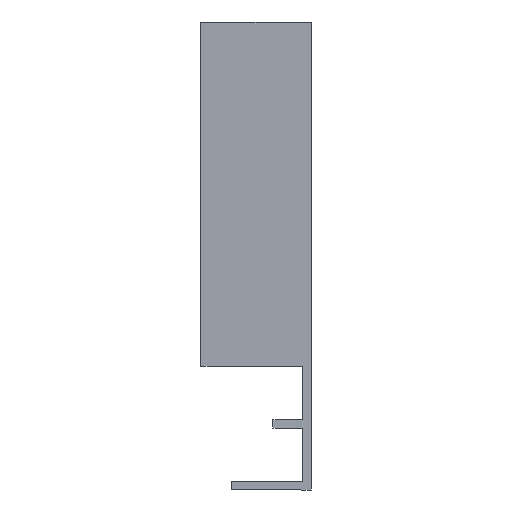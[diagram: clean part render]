
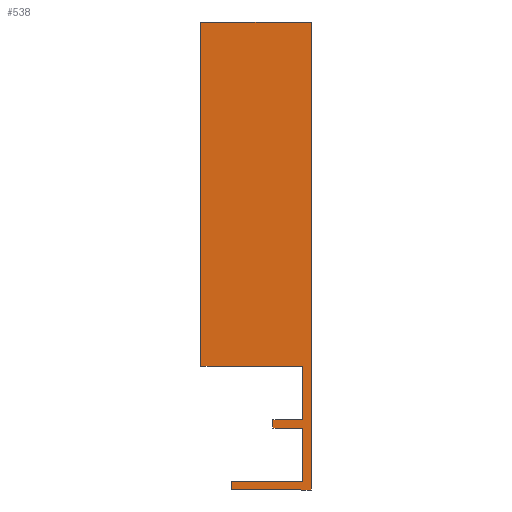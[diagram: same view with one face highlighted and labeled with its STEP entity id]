
A CAD part, left-side view. The second image highlights one B-rep face of the part: STEP entity #538.
In plain terms, the highlighted planar face has unit normal (-1, 0, 0).
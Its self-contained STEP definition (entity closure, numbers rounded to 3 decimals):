
#6 = VERTEX_POINT ( 'NONE', #319 ) ;
#9 = VERTEX_POINT ( 'NONE', #33 ) ;
#11 = VERTEX_POINT ( 'NONE', #32 ) ;
#13 = VERTEX_POINT ( 'NONE', #400 ) ;
#15 = VERTEX_POINT ( 'NONE', #405 ) ;
#17 = VERTEX_POINT ( 'NONE', #374 ) ;
#19 = VERTEX_POINT ( 'NONE', #410 ) ;
#22 = VERTEX_POINT ( 'NONE', #397 ) ;
#24 = VERTEX_POINT ( 'NONE', #390 ) ;
#25 = VERTEX_POINT ( 'NONE', #386 ) ;
#29 = VERTEX_POINT ( 'NONE', #356 ) ;
#32 = CARTESIAN_POINT ( 'NONE',  ( -488.5, -5.5, 49.7 ) ) ;
#33 = CARTESIAN_POINT ( 'NONE',  ( -488.5, 10.4, 49.7 ) ) ;
#34 = VERTEX_POINT ( 'NONE', #367 ) ;
#39 = AXIS2_PLACEMENT_3D ( 'NONE', #466, #472, #473 ) ;
#60 = EDGE_CURVE ( 'NONE', #15, #25, #202, .T. ) ;
#61 = EDGE_CURVE ( 'NONE', #34, #6, #200, .T. ) ;
#62 = EDGE_CURVE ( 'NONE', #25, #34, #192, .T. ) ;
#68 = EDGE_CURVE ( 'NONE', #11, #9, #183, .T. ) ;
#73 = EDGE_CURVE ( 'NONE', #6, #29, #181, .T. ) ;
#74 = EDGE_CURVE ( 'NONE', #24, #22, #168, .T. ) ;
#78 = EDGE_CURVE ( 'NONE', #22, #19, #182, .T. ) ;
#84 = EDGE_CURVE ( 'NONE', #29, #11, #149, .T. ) ;
#85 = EDGE_CURVE ( 'NONE', #9, #13, #147, .T. ) ;
#89 = EDGE_CURVE ( 'NONE', #19, #17, #140, .T. ) ;
#91 = EDGE_CURVE ( 'NONE', #13, #24, #136, .T. ) ;
#92 = EDGE_CURVE ( 'NONE', #17, #15, #134, .T. ) ;
#107 = ORIENTED_EDGE ( 'NONE', *, *, #62, .T. ) ;
#121 = FACE_OUTER_BOUND ( 'NONE', #305, .T. ) ;
#133 = VECTOR ( 'NONE', #432, 1000. ) ;
#134 = LINE ( 'NONE', #431, #133 ) ;
#135 = VECTOR ( 'NONE', #430, 1000. ) ;
#136 = LINE ( 'NONE', #429, #135 ) ;
#139 = VECTOR ( 'NONE', #426, 1000. ) ;
#140 = LINE ( 'NONE', #425, #139 ) ;
#146 = VECTOR ( 'NONE', #416, 1000. ) ;
#147 = LINE ( 'NONE', #415, #146 ) ;
#148 = VECTOR ( 'NONE', #414, 1000. ) ;
#149 = LINE ( 'NONE', #413, #148 ) ;
#160 = VECTOR ( 'NONE', #328, 1000. ) ;
#167 = VECTOR ( 'NONE', #338, 1000. ) ;
#168 = LINE ( 'NONE', #339, #167 ) ;
#170 = VECTOR ( 'NONE', #341, 1000. ) ;
#181 = LINE ( 'NONE', #350, #170 ) ;
#182 = LINE ( 'NONE', #342, #160 ) ;
#183 = LINE ( 'NONE', #355, #185 ) ;
#185 = VECTOR ( 'NONE', #354, 1000. ) ;
#191 = VECTOR ( 'NONE', #372, 1000. ) ;
#192 = LINE ( 'NONE', #373, #191 ) ;
#193 = VECTOR ( 'NONE', #375, 1000. ) ;
#195 = VECTOR ( 'NONE', #378, 1000. ) ;
#200 = LINE ( 'NONE', #379, #193 ) ;
#202 = LINE ( 'NONE', #384, #195 ) ;
#219 = ORIENTED_EDGE ( 'NONE', *, *, #85, .T. ) ;
#220 = ORIENTED_EDGE ( 'NONE', *, *, #91, .T. ) ;
#221 = ORIENTED_EDGE ( 'NONE', *, *, #74, .T. ) ;
#222 = ORIENTED_EDGE ( 'NONE', *, *, #78, .T. ) ;
#223 = ORIENTED_EDGE ( 'NONE', *, *, #89, .T. ) ;
#224 = ORIENTED_EDGE ( 'NONE', *, *, #92, .T. ) ;
#225 = ORIENTED_EDGE ( 'NONE', *, *, #60, .T. ) ;
#247 = ORIENTED_EDGE ( 'NONE', *, *, #61, .T. ) ;
#248 = ORIENTED_EDGE ( 'NONE', *, *, #73, .T. ) ;
#249 = ORIENTED_EDGE ( 'NONE', *, *, #84, .T. ) ;
#259 = ORIENTED_EDGE ( 'NONE', *, *, #68, .T. ) ;
#305 = EDGE_LOOP ( 'NONE', ( #107, #247, #248, #249, #259, #219, #220, #221, #222, #223, #224, #225 ) ) ;
#319 = CARTESIAN_POINT ( 'NONE',  ( -488.5, 6., -17.9 ) ) ;
#328 = DIRECTION ( 'NONE',  ( 0., 1., 0. ) ) ;
#338 = DIRECTION ( 'NONE',  ( 0., 0., -1. ) ) ;
#339 = CARTESIAN_POINT ( 'NONE',  ( -488.5, -4.3, 0. ) ) ;
#341 = DIRECTION ( 'NONE',  ( 0., -1., 0. ) ) ;
#342 = CARTESIAN_POINT ( 'NONE',  ( -488.5, -4.3, -7.75 ) ) ;
#350 = CARTESIAN_POINT ( 'NONE',  ( -488.5, 6., -17.9 ) ) ;
#354 = DIRECTION ( 'NONE',  ( 0., 1., 0. ) ) ;
#355 = CARTESIAN_POINT ( 'NONE',  ( -488.5, -5.5, 49.7 ) ) ;
#356 = CARTESIAN_POINT ( 'NONE',  ( -488.5, -5.5, -17.9 ) ) ;
#367 = CARTESIAN_POINT ( 'NONE',  ( -488.5, 6., -16.7 ) ) ;
#372 = DIRECTION ( 'NONE',  ( 0., 1., 0. ) ) ;
#373 = CARTESIAN_POINT ( 'NONE',  ( -488.5, -4.3, -16.7 ) ) ;
#374 = CARTESIAN_POINT ( 'NONE',  ( -488.5, 0., -8.95 ) ) ;
#375 = DIRECTION ( 'NONE',  ( 0., 0., -1. ) ) ;
#378 = DIRECTION ( 'NONE',  ( 0., 0., -1. ) ) ;
#379 = CARTESIAN_POINT ( 'NONE',  ( -488.5, 6., -16.7 ) ) ;
#384 = CARTESIAN_POINT ( 'NONE',  ( -488.5, -4.3, -8.95 ) ) ;
#386 = CARTESIAN_POINT ( 'NONE',  ( -488.5, -4.3, -16.7 ) ) ;
#390 = CARTESIAN_POINT ( 'NONE',  ( -488.5, -4.3, 0. ) ) ;
#397 = CARTESIAN_POINT ( 'NONE',  ( -488.5, -4.3, -7.75 ) ) ;
#400 = CARTESIAN_POINT ( 'NONE',  ( -488.5, 10.4, 0. ) ) ;
#405 = CARTESIAN_POINT ( 'NONE',  ( -488.5, -4.3, -8.95 ) ) ;
#410 = CARTESIAN_POINT ( 'NONE',  ( -488.5, 0., -7.75 ) ) ;
#413 = CARTESIAN_POINT ( 'NONE',  ( -488.5, -5.5, -17.9 ) ) ;
#414 = DIRECTION ( 'NONE',  ( 0., 0., 1. ) ) ;
#415 = CARTESIAN_POINT ( 'NONE',  ( -488.5, 10.4, 49.7 ) ) ;
#416 = DIRECTION ( 'NONE',  ( 0., 0., -1. ) ) ;
#425 = CARTESIAN_POINT ( 'NONE',  ( -488.5, 0., -7.75 ) ) ;
#426 = DIRECTION ( 'NONE',  ( 0., 0., -1. ) ) ;
#429 = CARTESIAN_POINT ( 'NONE',  ( -488.5, 10.4, 0. ) ) ;
#430 = DIRECTION ( 'NONE',  ( 0., -1., 0. ) ) ;
#431 = CARTESIAN_POINT ( 'NONE',  ( -488.5, 0., -8.95 ) ) ;
#432 = DIRECTION ( 'NONE',  ( 0., -1., 0. ) ) ;
#463 = PLANE ( 'NONE',  #39 ) ;
#466 = CARTESIAN_POINT ( 'NONE',  ( -488.5, 6., -16.7 ) ) ;
#472 = DIRECTION ( 'NONE',  ( -1., 0., 0. ) ) ;
#473 = DIRECTION ( 'NONE',  ( 0., -1., 0. ) ) ;
#538 = ADVANCED_FACE ( 'NONE', ( #121 ), #463, .T. ) ;
